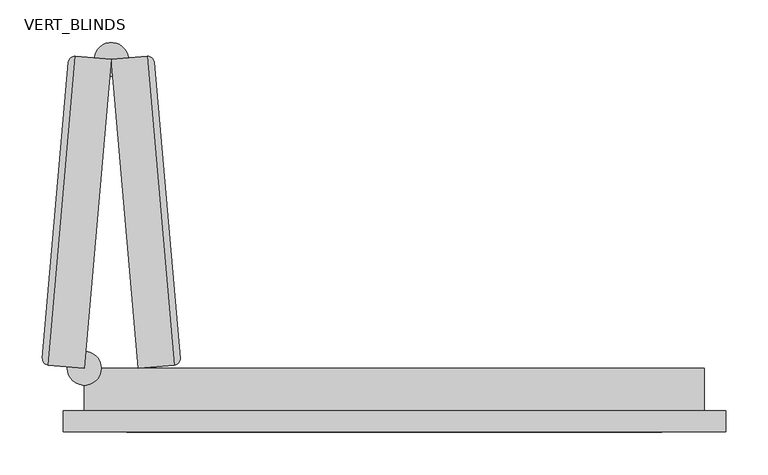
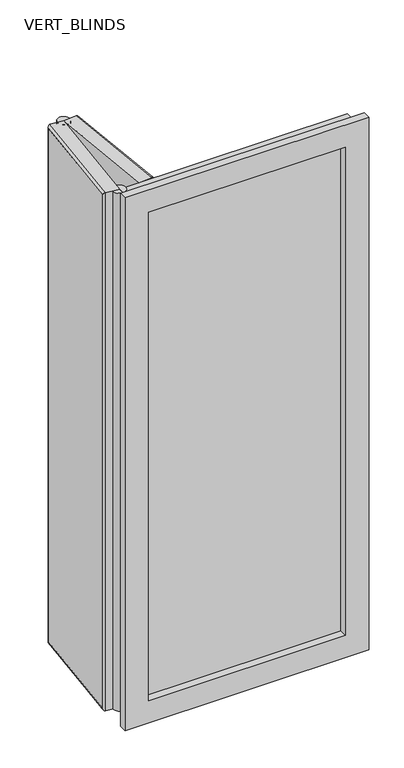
"""IFC4 building model written with IfcOpenShell, lengths in millimetres: plate geometry, CURTAIN PANEL VODA STYLE BIFOLDING : VERT_BLINDS."""

import ifcopenshell
import ifcopenshell.guid

model = None  # the IFC model being written
_history = None  # IfcOwnerHistory: only IFC2X3 demands one
_inside = {}  # id of a spatial element -> (the spatial element, [elements in it])
_under = {}  # id of a project, library or spatial element -> (it, [spatial elements below it])
_declared = {}  # id of a project -> (the project, [libraries it declares])
_typed = {}  # id of a type object -> (the type object, [elements of that type])
_made_of = {}  # id of a material, layer set ... -> (it, [elements and type objects made of it])


def new_model(schema):
    """Start an empty IFC model of exactly this schema.

    Asked for "IFC4X3", IfcOpenShell would pick the latest addendum, in which some entities
    have other attributes; the version numbers below select the first issue.
    IFC2X3 requires an IfcOwnerHistory on every rooted entity: one is made here for all.
    """
    global model, _history
    if schema == "IFC4X3":
        model = ifcopenshell.file(schema_version=(4, 3, 0, 0))
    else:
        model = ifcopenshell.file(schema=schema)
    _inside.clear()
    _under.clear()
    _declared.clear()
    _typed.clear()
    _made_of.clear()
    _history = None
    if model.schema == "IFC2X3":
        org = make("IfcOrganization", Name="unknown")
        user = make(
            "IfcPersonAndOrganization",
            ThePerson=make("IfcPerson", FamilyName="unknown"),
            TheOrganization=org,
        )
        app = make(
            "IfcApplication",
            ApplicationDeveloper=org,
            Version="unknown",
            ApplicationFullName="unknown",
            ApplicationIdentifier="unknown",
        )
        _history = make(
            "IfcOwnerHistory",
            OwningUser=user,
            OwningApplication=app,
            ChangeAction="ADDED",
            CreationDate=0,
        )
    return model


def make(cls, **values):
    """One entity of the class cls with the attributes given. An attribute that is None is left unset."""
    return model.create_entity(
        cls, **{name: value for name, value in values.items() if value is not None}
    )


def rooted(cls, **values):
    """An entity with a GlobalId (a new one), such as an element, a storey or a relation."""
    return make(cls, GlobalId=ifcopenshell.guid.new(), OwnerHistory=_history, **values)


def si_unit(unit_type, name, prefix=None):
    """IfcSIUnit, for example si_unit("LENGTHUNIT", "METRE", prefix="MILLI")."""
    return make("IfcSIUnit", UnitType=unit_type, Prefix=prefix, Name=name)


def assignment(units):
    """IfcUnitAssignment: the units of a project."""
    return None if units is None else make("IfcUnitAssignment", Units=units)


def point(xyz):
    """IfcCartesianPoint."""
    return None if xyz is None else make("IfcCartesianPoint", Coordinates=xyz)


def direction(xyz):
    """IfcDirection."""
    return None if xyz is None else make("IfcDirection", DirectionRatios=xyz)


def frame(location, z_axis=None, x_axis=None):
    """IfcAxis2Placement3D, a coordinate frame: its origin and axes. An axis left out is left unset."""
    return make(
        "IfcAxis2Placement3D",
        Location=point(location),
        Axis=direction(z_axis),
        RefDirection=direction(x_axis),
    )


def frame_2d(location, x_axis=None):
    """IfcAxis2Placement2D, a coordinate frame in the plane: its origin and x axis."""
    return make(
        "IfcAxis2Placement2D", Location=point(location), RefDirection=direction(x_axis)
    )


def origin():
    """The frame at (0, 0, 0) with its axes left unset."""
    return frame((0.0, 0.0, 0.0))


def place(relative_to, where):
    """IfcLocalPlacement: puts the frame where relative to a parent placement (None: the world)."""
    return make(
        "IfcLocalPlacement", PlacementRelTo=relative_to, RelativePlacement=where
    )


def context(
    kind, dimensions, precision=None, world=None, true_north=None, identifier=None
):
    """IfcGeometricRepresentationContext, for example the 3D "Model" context."""
    return make(
        "IfcGeometricRepresentationContext",
        ContextIdentifier=identifier,
        ContextType=kind,
        CoordinateSpaceDimension=dimensions,
        Precision=precision,
        WorldCoordinateSystem=world,
        TrueNorth=true_north,
    )


def project(units=None, contexts=None):
    """IfcProject with its units and contexts."""
    return rooted(
        "IfcProject",
        Name="project",
        RepresentationContexts=contexts,
        UnitsInContext=assignment(units),
    )


def spatial(cls, under=None, at=None, **own):
    """A site, building, storey or space (cls), placed at a placement, below another one or the project."""
    s = rooted(cls, ObjectPlacement=at, **own)
    if under is not None:
        _under.setdefault(under.id(), (under, []))[1].append(s)
    return s


def polyline(points):
    """IfcPolyline through the points."""
    return make("IfcPolyline", Points=[point(p) for p in points])


def circle_curve(where, radius):
    """IfcCircle in the frame where."""
    return make("IfcCircle", Position=where, Radius=radius)


def ellipse_curve(where, semi_axis1, semi_axis2):
    """IfcEllipse in the frame where."""
    return make(
        "IfcEllipse", Position=where, SemiAxis1=semi_axis1, SemiAxis2=semi_axis2
    )


def trimmed(basis, trim1, trim2, sense, master):
    """IfcTrimmedCurve: the piece of a basis curve between two trims."""
    return make(
        "IfcTrimmedCurve",
        BasisCurve=basis,
        Trim1=trim1,
        Trim2=trim2,
        SenseAgreement=sense,
        MasterRepresentation=master,
    )


def segment(curve, same_sense, transition):
    """IfcCompositeCurveSegment."""
    return make(
        "IfcCompositeCurveSegment",
        Transition=transition,
        SameSense=same_sense,
        ParentCurve=curve,
    )


def composite_curve(segments, self_intersect=None):
    """IfcCompositeCurve: segments joined end to end."""
    return make("IfcCompositeCurve", Segments=segments, SelfIntersect=self_intersect)


def outline(outer, holes=None, kind="AREA"):
    """IfcArbitraryClosedProfileDef: a profile drawn as a closed curve; with holes, ...WithVoids."""
    if holes is None:
        return make("IfcArbitraryClosedProfileDef", ProfileType=kind, OuterCurve=outer)
    return make(
        "IfcArbitraryProfileDefWithVoids",
        ProfileType=kind,
        OuterCurve=outer,
        InnerCurves=holes,
    )


def extrude(swept, where, along, depth):
    """IfcExtrudedAreaSolid: the profile swept, set in the frame where, extruded along a direction by depth."""
    return make(
        "IfcExtrudedAreaSolid",
        SweptArea=swept,
        Position=where,
        ExtrudedDirection=direction(along),
        Depth=depth,
    )


def faces_of(points, faces, orient=None, outer=None):
    """IfcFace entities. A face is a list of loops; a loop is a list of indices into points, from 0.

    orient and outer hold one flag for each loop. By default every Orientation is true, the
    first loop of a face is its IfcFaceOuterBound and the others are IfcFaceBound.
    """
    made = []
    for i, loops in enumerate(faces):
        bounds = []
        for j, loop in enumerate(loops):
            is_outer = j == 0 if outer is None else outer[i][j]
            bounds.append(
                make(
                    "IfcFaceOuterBound" if is_outer else "IfcFaceBound",
                    Bound=make("IfcPolyLoop", Polygon=[points[k] for k in loop]),
                    Orientation=True if orient is None else orient[i][j],
                )
            )
        made.append(make("IfcFace", Bounds=bounds))
    return made


def faceted_brep(points, faces, orient=None, outer=None, voids=None):
    """IfcFacetedBrep: a solid bounded by flat faces; with voids (closed shells), ...WithVoids."""
    shared = [point(p) for p in points]
    hull = make("IfcClosedShell", CfsFaces=faces_of(shared, faces, orient, outer))
    if voids is None:
        return make("IfcFacetedBrep", Outer=hull)
    return make(
        "IfcFacetedBrepWithVoids",
        Outer=hull,
        Voids=[
            make(cls, CfsFaces=faces_of(shared, fs, o, b)) for cls, fs, o, b in voids
        ],
    )


def shape(context_of_items, identifier, shape_type, items):
    """IfcShapeRepresentation: the items that make up one representation, for example the "Body"."""
    return make(
        "IfcShapeRepresentation",
        ContextOfItems=context_of_items,
        RepresentationIdentifier=identifier,
        RepresentationType=shape_type,
        Items=items,
    )


def source(mapping_origin, context_of_items, identifier, shape_type, items):
    """IfcRepresentationMap: a shape defined once, which mapped items show again and again."""
    return make(
        "IfcRepresentationMap",
        MappingOrigin=mapping_origin,
        MappedRepresentation=shape(context_of_items, identifier, shape_type, items),
    )


def transform(
    local_origin,
    x_axis=None,
    y_axis=None,
    z_axis=None,
    scale=None,
    scale2=None,
    scale3=None,
    uniform=True,
):
    """IfcCartesianTransformationOperator3D, or its non-uniform kind. x_axis, y_axis, z_axis: its Axis1, 2, 3."""
    if uniform:
        return make(
            "IfcCartesianTransformationOperator3D",
            Axis1=direction(x_axis),
            Axis2=direction(y_axis),
            LocalOrigin=point(local_origin),
            Scale=scale,
            Axis3=direction(z_axis),
        )
    return make(
        "IfcCartesianTransformationOperator3DnonUniform",
        Axis1=direction(x_axis),
        Axis2=direction(y_axis),
        LocalOrigin=point(local_origin),
        Scale=scale,
        Axis3=direction(z_axis),
        Scale2=scale2,
        Scale3=scale3,
    )


def mapped(mapping_source, mapping_target):
    """IfcMappedItem: shows the shape of a source again, moved by a transform."""
    return make(
        "IfcMappedItem", MappingSource=mapping_source, MappingTarget=mapping_target
    )


def made_of(thing, what):
    """Note that an element or type object is made of a material, layer set ...; save() writes the relation."""
    if what is not None:
        _made_of.setdefault(what.id(), (what, []))[1].append(thing)
    return thing


def element(
    cls,
    number,
    at=None,
    inside=None,
    cuts=None,
    type_object=None,
    material=None,
    context=None,
    identifier="Body",
    shape_type=None,
    held_by="IfcProductDefinitionShape",
    body=None,
    shapes=None,
    **own,
):
    """One element of the class cls, such as IfcWall. Its Tag is "e" and its number.

    at: its placement. inside: the storey or other place that contains it. cuts: it is an
    opening in that element (IfcRelVoidsElement). A single representation is given by context,
    identifier, shape_type and body (its items); several are given by shapes. held_by: the class
    of the entity that holds the representations. save() writes the other relations.
    """
    e = rooted(cls, Tag="e%d" % number, ObjectPlacement=at, **own)
    if body is not None:
        shapes = [shape(context, identifier, shape_type, body)]
    if shapes is not None:
        e.Representation = make(held_by, Representations=shapes)
    if inside is not None:
        _inside.setdefault(inside.id(), (inside, []))[1].append(e)
    if cuts is not None:
        rooted(
            "IfcRelVoidsElement", RelatingBuildingElement=cuts, RelatedOpeningElement=e
        )
    if type_object is not None:
        _typed.setdefault(type_object.id(), (type_object, []))[1].append(e)
    return made_of(e, material)


def aggregate(whole, parts):
    """IfcRelAggregates: a whole, such as a stair, and the parts it consists of."""
    return rooted("IfcRelAggregates", RelatingObject=whole, RelatedObjects=parts)


def save(model, path):
    """Write the relations noted so far, then the file.

    IfcRelAggregates (storeys below a building ...), IfcRelContainedInSpatialStructure (elements
    in a storey), IfcRelDefinesByType, IfcRelAssociatesMaterial and IfcRelDeclares: one each for
    every whole, place, type object, material and project.
    """
    for whole, parts in _under.values():
        aggregate(whole, parts)
    for where, things in _inside.values():
        rooted(
            "IfcRelContainedInSpatialStructure",
            RelatedElements=things,
            RelatingStructure=where,
        )
    for kind, things in _typed.values():
        rooted("IfcRelDefinesByType", RelatedObjects=things, RelatingType=kind)
    for what, things in _made_of.values():
        rooted("IfcRelAssociatesMaterial", RelatedObjects=things, RelatingMaterial=what)
    for by, libraries in _declared.values():
        rooted("IfcRelDeclares", RelatingContext=by, RelatedDefinitions=libraries)
    model.write(path)


def plane_surface(at):
    """IfcPlane: the flat surface through the origin of the frame at, square to its z axis."""
    return make("IfcPlane", Position=at)


def cylinder_surface(at, radius):
    """IfcCylindricalSurface: all points at the distance radius from the z axis of the frame at."""
    return make("IfcCylindricalSurface", Position=at, Radius=radius)


def advanced_brep(points, edges, surfaces, faces):
    """IfcAdvancedBrep: a solid bounded by faces that lie on surfaces and meet in shared edges.

    An edge is (start, end): straight between two places in points (the first is 0);
    or (start, end, curve); or (start, end, curve, False) where it runs against its curve.
    A face is (place in surfaces, loops), or (place, loops, False) where it looks against
    its surface's normal. A loop lists edges by number (the first is 1), with a minus sign
    where the edge is run from its end to its start. The first loop is the outer one.
    """
    corners = [point(p) for p in points]
    vertices = [make("IfcVertexPoint", VertexGeometry=c) for c in corners]
    made = []
    for start, end, *more in edges:
        made.append(
            make(
                "IfcEdgeCurve",
                EdgeStart=vertices[start],
                EdgeEnd=vertices[end],
                EdgeGeometry=more[0] if more else make("IfcPolyline", Points=[corners[start], corners[end]]),
                SameSense=more[1] if len(more) > 1 else True,
            )
        )
    hull = []
    for where, loops, *sense in faces:
        bounds = []
        for j, loop in enumerate(loops):
            ring = [make("IfcOrientedEdge", EdgeElement=made[abs(k) - 1], Orientation=k > 0) for k in loop]
            bounds.append(
                make(
                    "IfcFaceOuterBound" if j == 0 else "IfcFaceBound",
                    Bound=make("IfcEdgeLoop", EdgeList=ring),
                    Orientation=True,
                )
            )
        hull.append(make("IfcAdvancedFace", Bounds=bounds, FaceSurface=surfaces[where], SameSense=sense[0] if sense else True))
    return make("IfcAdvancedBrep", Outer=make("IfcClosedShell", CfsFaces=hull))


def vert_blinds_48d4288f(model_context):
    return source(origin(), model_context, "Body", "SolidModel", [
        advanced_brep(
        [(-364.7172446, 50.0, 1775.0), (-332.9300423, 413.3293854, 1775.0), (-375.268317, 417.0335045, 1775.0), (-407.0555193, 53.7041191, 1775.0), (-332.9300423, 413.3293854, 25.0), (-364.7172446, 50.0, 25.0), (-407.0555193, 53.7041191, 25.0), (-375.268317, 417.0335045, 25.0), (-413.8733115, 61.8292474, 32.5), (-413.8733115, 61.8292474, 1767.5), (-383.3934453, 410.2157123, 1767.5), (-383.3934453, 410.2157123, 32.5)],
        [
            (0, 1),
            (1, 2),
            (2, 3),
            (3, 0),
            (4, 5),
            (5, 6),
            (6, 7),
            (7, 4),
            (1, 4),
            (7, 2),
            (8, 9),
            (9, 10),
            (10, 11),
            (11, 8),
            (5, 0),
            (3, 6),
            (8, 6, ellipse_curve(frame((-406.4018512, 61.1755793, 32.5), z_axis=(-0.06162841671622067, -0.7044160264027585, 0.7071067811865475), x_axis=(-0.06162841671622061, -0.7044160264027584, -0.7071067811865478)), 10.6066017, 7.5)),
            (3, 9, ellipse_curve(frame((-406.4018512, 61.1755793, 1767.5), z_axis=(-0.06162841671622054, -0.7044160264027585, -0.7071067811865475), x_axis=(0.06162841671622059, 0.7044160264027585, -0.7071067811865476)), 10.6066017, 7.5)),
            (11, 7, ellipse_curve(frame((-375.921985, 409.5620443, 32.5), z_axis=(-0.061628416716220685, -0.7044160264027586, -0.7071067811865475), x_axis=(0.0616284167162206, 0.7044160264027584, -0.7071067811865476)), 10.6066017, 7.5)),
            (10, 2, ellipse_curve(frame((-375.921985, 409.5620443, 1767.5), z_axis=(0.06162841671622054, 0.7044160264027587, -0.7071067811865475), x_axis=(0.0616284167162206, 0.7044160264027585, 0.7071067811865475)), 10.6066017, 7.5)),
        ],
        [
            plane_surface(frame((-382.7397772, 417.6871726, 1775.0), z_axis=(0.0, 0.0, 1.0), x_axis=(-0.9961946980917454, 0.0871557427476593, 0.0))),
            plane_surface(frame((-382.7397772, 417.6871726, 25.0), z_axis=(0.0, 0.0, -1.0), x_axis=(0.9961946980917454, -0.0871557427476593, 0.0))),
            plane_surface(frame((-332.9300423, 413.3293854, 1775.0), z_axis=(0.0871557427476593, 0.9961946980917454, 0.0), x_axis=(0.0, 0.0, -1.0))),
            plane_surface(frame((-382.7397772, 417.6871726, 1775.0), z_axis=(-0.9961946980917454, 0.08715574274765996, 0.0), x_axis=(0.0, 0.0, -1.0))),
            plane_surface(frame((-414.5269796, 54.3577871, 1775.0), z_axis=(-0.08715574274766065, -0.9961946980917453, 0.0), x_axis=(0.0, 0.0, -1.0))),
            plane_surface(frame((-364.7172446, 50.0, 1775.0), z_axis=(0.9961946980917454, -0.08715574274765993, 0.0), x_axis=(0.0, 0.0, -1.0))),
            cylinder_surface(frame((-406.4018512, 61.1755793, 1775.0), z_axis=(0.0, 0.0, -0.9999999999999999), x_axis=(0.9961946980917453, -0.08715574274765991, 0.0)), 7.5),
            cylinder_surface(frame((-407.0555193, 53.7041191, 32.5), z_axis=(0.08715574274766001, 0.9961946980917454, 0.0), x_axis=(0.9961946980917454, -0.08715574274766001, 0.0)), 7.5),
            cylinder_surface(frame((-375.921985, 409.5620443, 25.0), z_axis=(0.0, 0.0, 1.0000000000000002), x_axis=(0.9961946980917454, -0.08715574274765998, 0.0)), 7.5),
            cylinder_surface(frame((-375.268317, 417.0335045, 1767.5), z_axis=(-0.0871557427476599, -0.9961946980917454, 0.0), x_axis=(0.9961946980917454, -0.0871557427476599, 0.0)), 7.5),
        ],
        [
            (0, [[1, 2, 3, 4]]),
            (1, [[5, 6, 7, 8]]),
            (2, [[9, -8, 10, -2]]),
            (3, [[11, 12, 13, 14]]),
            (4, [[15, -4, 16, -6]]),
            (5, [[-1, -15, -5, -9]]),
            (6, [[17, -16, 18, -11]]),
            (7, [[-17, -14, 19, -7]]),
            (8, [[-19, -13, 20, -10]]),
            (9, [[-18, -3, -20, -12]]),
        ],
    ),
        advanced_brep(
        [(-332.9300423, 413.3293854, 1775.0), (-301.1428399, 50.0, 1775.0), (-258.8045653, 53.7041191, 1775.0), (-290.5917676, 417.0335045, 1775.0), (-301.1428399, 50.0, 25.0), (-332.9300423, 413.3293854, 25.0), (-290.5917676, 417.0335045, 25.0), (-258.8045653, 53.7041191, 25.0), (-282.4666393, 410.2157123, 32.5), (-282.4666393, 410.2157123, 1767.5), (-251.9867731, 61.8292474, 1767.5), (-251.9867731, 61.8292474, 32.5)],
        [
            (0, 1),
            (1, 2),
            (2, 3),
            (3, 0),
            (4, 5),
            (5, 6),
            (6, 7),
            (7, 4),
            (1, 4),
            (7, 2),
            (8, 9),
            (9, 10),
            (10, 11),
            (11, 8),
            (5, 0),
            (3, 6),
            (8, 6, ellipse_curve(frame((-289.9380996, 409.5620443, 32.5), z_axis=(-0.06162841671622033, 0.7044160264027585, 0.7071067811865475), x_axis=(-0.06162841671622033, 0.7044160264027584, -0.7071067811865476)), 10.6066017, 7.5)),
            (3, 9, ellipse_curve(frame((-289.9380996, 409.5620443, 1767.5), z_axis=(-0.06162841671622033, 0.7044160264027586, -0.7071067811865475), x_axis=(0.06162841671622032, -0.7044160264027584, -0.7071067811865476)), 10.6066017, 7.5)),
            (11, 7, ellipse_curve(frame((-259.4582333, 61.1755793, 32.5), z_axis=(-0.06162841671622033, 0.7044160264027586, -0.7071067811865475), x_axis=(0.06162841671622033, -0.7044160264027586, -0.7071067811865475)), 10.6066017, 7.5)),
            (10, 2, ellipse_curve(frame((-259.4582333, 61.1755793, 1767.5), z_axis=(0.061628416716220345, -0.7044160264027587, -0.7071067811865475), x_axis=(0.06162841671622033, -0.7044160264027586, 0.7071067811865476)), 10.6066017, 7.5)),
        ],
        [
            plane_surface(frame((-251.333105, 54.3577871, 1775.0), z_axis=(0.0, 0.0, 1.0), x_axis=(0.9961946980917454, 0.087155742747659, 0.0))),
            plane_surface(frame((-251.333105, 54.3577871, 25.0), z_axis=(0.0, 0.0, -1.0), x_axis=(-0.9961946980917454, -0.087155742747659, 0.0))),
            plane_surface(frame((-301.1428399, 50.0, 1775.0), z_axis=(0.087155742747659, -0.9961946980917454, 0.0), x_axis=(0.0, 0.0, -1.0))),
            plane_surface(frame((-251.333105, 54.3577871, 1775.0), z_axis=(0.9961946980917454, 0.08715574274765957, 0.0), x_axis=(0.0, 0.0, -1.0))),
            plane_surface(frame((-283.1203074, 417.6871726, 1775.0), z_axis=(-0.08715574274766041, 0.9961946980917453, 0.0), x_axis=(0.0, 0.0, -1.0))),
            plane_surface(frame((-332.9300423, 413.3293854, 1775.0), z_axis=(-0.9961946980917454, -0.08715574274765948, 0.0), x_axis=(0.0, 0.0, -1.0))),
            cylinder_surface(frame((-289.9380996, 409.5620443, 1775.0), z_axis=(0.0, 0.0, -1.0000000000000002), x_axis=(-0.9961946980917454, -0.08715574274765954, 0.0)), 7.5),
            cylinder_surface(frame((-290.5917676, 417.0335045, 32.5), z_axis=(0.08715574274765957, -0.9961946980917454, 0.0), x_axis=(-0.9961946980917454, -0.08715574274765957, 0.0)), 7.5),
            cylinder_surface(frame((-259.4582333, 61.1755793, 25.0), z_axis=(0.0, 0.0, 1.0), x_axis=(-0.9961946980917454, -0.0871557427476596, 0.0)), 7.5),
            cylinder_surface(frame((-258.8045653, 53.7041191, 1767.5), z_axis=(-0.08715574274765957, 0.9961946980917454, 0.0), x_axis=(-0.9961946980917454, -0.08715574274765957, 0.0)), 7.5),
        ],
        [
            (0, [[1, 2, 3, 4]]),
            (1, [[5, 6, 7, 8]]),
            (2, [[9, -8, 10, -2]]),
            (3, [[11, 12, 13, 14]]),
            (4, [[15, -4, 16, -6]]),
            (5, [[-1, -15, -5, -9]]),
            (6, [[17, -16, 18, -11]]),
            (7, [[-17, -14, 19, -7]]),
            (8, [[-19, -13, 20, -10]]),
            (9, [[-18, -3, -20, -12]]),
        ],
    ),
        extrude(outline(composite_curve([segment(trimmed(circle_curve(frame_2d((-364.7172446, 50.0)), 20.0), [point((-384.7172446, 50.0))], [point((-344.7172446, 50.0))], False, "CARTESIAN"), True, "CONTINUOUS"), segment(trimmed(circle_curve(frame_2d((-364.7172446, 50.0)), 20.0), [point((-344.7172446, 50.0))], [point((-384.7172446, 50.0))], False, "CARTESIAN"), True, "CONTINUOUS")], self_intersect=False)), frame((0.0, 0.0, 25.0), z_axis=(0.0, 0.0, 1.0), x_axis=(1.0, 0.0, 0.0)), (0.0, 0.0, 1.0), 1750.0),
        extrude(outline(composite_curve([segment(trimmed(circle_curve(frame_2d((-332.9300423, 413.3293854)), 20.0), [point((-334.6731572, 393.4054915))], [point((-331.1869274, 433.2532794))], False, "CARTESIAN"), True, "CONTINUOUS"), segment(trimmed(circle_curve(frame_2d((-332.9300423, 413.3293854)), 20.0), [point((-331.1869274, 433.2532794))], [point((-334.6731572, 393.4054915))], False, "CARTESIAN"), True, "CONTINUOUS")], self_intersect=False)), frame((0.0, 0.0, 25.0), z_axis=(0.0, 0.0, 1.0), x_axis=(1.0, 0.0, 0.0)), (0.0, 0.0, 1.0), 1750.0),
        extrude(outline(polyline([(-314.7172446, 24.0), (314.7172446, 24.0), (314.7172446, 0.0), (-314.7172446, 0.0), (-314.7172446, 24.0)])), frame((0.0, 0.0, 75.0), z_axis=(0.0, 0.0, 1.0), x_axis=(1.0, 0.0, 0.0)), (0.0, 0.0, 1.0), 1650.0),
        faceted_brep([(-314.7172446, 50.0, 1725.0), (-314.7172446, -25.0, 1725.0), (-314.7172446, -25.0, 75.0), (-314.7172446, 50.0, 75.0), (-389.7172446, -25.0, 1800.0), (-389.7172446, 0.0, 1800.0), (-389.7172446, 0.0, 0.0), (-389.7172446, -25.0, 0.0), (-364.7172446, 0.0, 1775.0), (-364.7172446, 50.0, 1775.0), (-364.7172446, 50.0, 25.0), (-364.7172446, 0.0, 25.0), (314.7172446, -25.0, 75.0), (314.7172446, 50.0, 75.0), (389.7172446, 0.0, 0.0), (389.7172446, -25.0, 0.0), (364.7172446, 50.0, 25.0), (364.7172446, 0.0, 25.0), (314.7172446, -25.0, 1725.0), (314.7172446, 50.0, 1725.0), (389.7172446, 0.0, 1800.0), (389.7172446, -25.0, 1800.0), (364.7172446, 50.0, 1775.0), (364.7172446, 0.0, 1775.0)], [[[0, 1, 2, 3]], [[4, 5, 6, 7]], [[8, 9, 10, 11]], [[3, 2, 12, 13]], [[7, 6, 14, 15]], [[11, 10, 16, 17]], [[13, 12, 18, 19]], [[15, 14, 20, 21]], [[17, 16, 22, 23]], [[9, 22, 16, 10], [3, 13, 19, 0]], [[19, 18, 1, 0]], [[7, 15, 21, 4], [1, 18, 12, 2]], [[21, 20, 5, 4]], [[5, 20, 14, 6], [11, 17, 23, 8]], [[23, 22, 9, 8]]]),
    ])


if __name__ == "__main__":
    model = new_model("IFC4")
    model_context = context("Model", 3, world=origin())
    ifc_project = project(units=[si_unit("LENGTHUNIT", "METRE", prefix="MILLI")], contexts=[model_context])
    site = spatial("IfcSite", under=ifc_project)
    building = spatial("IfcBuilding", under=site)
    placement = place(None, origin())
    vert_blinds_shape = vert_blinds_48d4288f(model_context)
    element("IfcPlate", 1, ObjectType="CURTAIN PANEL VODA STYLE BIFOLDING : VERT_BLINDS", at=placement, inside=building, context=model_context, shape_type="MappedRepresentation", body=[
        mapped(vert_blinds_shape, transform((0.0, 0.0, 0.0), x_axis=(1.0, 0.0, 0.0), y_axis=(0.0, 1.0, 0.0), z_axis=(0.0, 0.0, 1.0))),
    ])
    save(model, "model.ifc")
